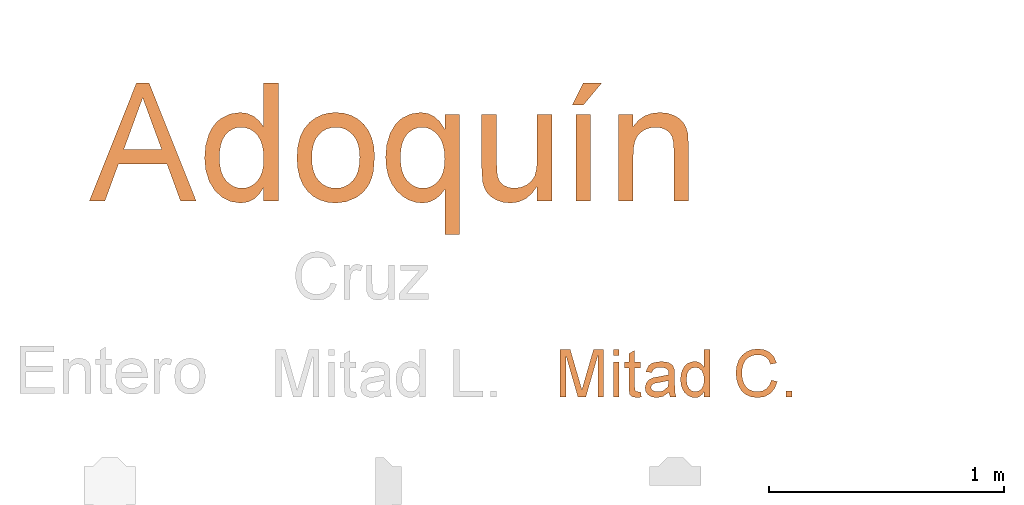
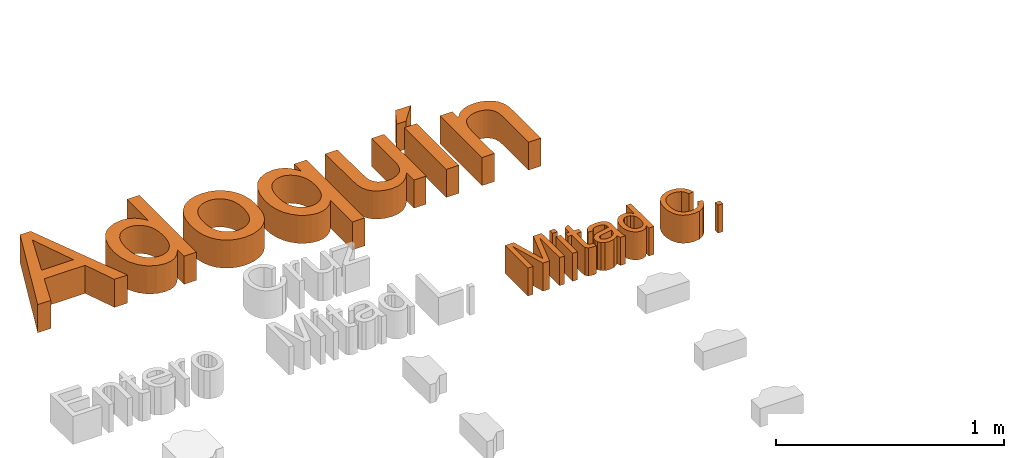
# One storey, part 8 of 19: 2 proxies.
"""IFC2X3 building model written with IfcOpenShell, lengths in metres."""

from ifc_helpers import new_model, entity, si_unit, converted_unit, derived_unit, direction, frame, frame_2d, origin, origin_2d_with_axis, place, context, subcontext, project, spatial, polyline, rectangle, outline, extrude, type_object, element, save


model = new_model("IFC2X3")

# Units and contexts
model_context = context("Model", 3, precision=1e-05, world=origin(), true_north=direction((6.12303176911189e-17, 1.0)))
body_context = subcontext(model_context, "Body", "Model", "MODEL_VIEW")
ifc_project = project(units=[si_unit("LENGTHUNIT", "METRE"), si_unit("AREAUNIT", "SQUARE_METRE"), si_unit("VOLUMEUNIT", "CUBIC_METRE"), converted_unit("PLANEANGLEUNIT", "DEGREE", entity("IfcRatioMeasure", 0.0174532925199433), si_unit("PLANEANGLEUNIT", "RADIAN"), dimensions=[0, 0, 0, 0, 0, 0, 0]), si_unit("MASSUNIT", "GRAM", prefix="KILO"), derived_unit("MASSDENSITYUNIT", [(si_unit("MASSUNIT", "GRAM", prefix="KILO"), 1), (si_unit("LENGTHUNIT", "METRE"), -3)]), derived_unit("MOMENTOFINERTIAUNIT", [(si_unit("LENGTHUNIT", "METRE"), 4)]), si_unit("TIMEUNIT", "SECOND"), si_unit("FREQUENCYUNIT", "HERTZ"), si_unit("THERMODYNAMICTEMPERATUREUNIT", "DEGREE_CELSIUS"), derived_unit("THERMALTRANSMITTANCEUNIT", [(si_unit("MASSUNIT", "GRAM", prefix="KILO"), 1), (si_unit("THERMODYNAMICTEMPERATUREUNIT", "KELVIN"), -1), (si_unit("TIMEUNIT", "SECOND"), -3)]), derived_unit("VOLUMETRICFLOWRATEUNIT", [(si_unit("LENGTHUNIT", "METRE"), 3), (si_unit("TIMEUNIT", "SECOND"), -1)]), si_unit("ELECTRICCURRENTUNIT", "AMPERE"), si_unit("ELECTRICVOLTAGEUNIT", "VOLT"), si_unit("POWERUNIT", "WATT"), si_unit("FORCEUNIT", "NEWTON", prefix="KILO"), si_unit("ILLUMINANCEUNIT", "LUX"), si_unit("LUMINOUSFLUXUNIT", "LUMEN"), si_unit("LUMINOUSINTENSITYUNIT", "CANDELA"), derived_unit("USERDEFINED", [(si_unit("MASSUNIT", "GRAM", prefix="KILO"), -1), (si_unit("LENGTHUNIT", "METRE"), -2), (si_unit("TIMEUNIT", "SECOND"), 3), (si_unit("LUMINOUSFLUXUNIT", "LUMEN"), 1)]), derived_unit("LINEARVELOCITYUNIT", [(si_unit("LENGTHUNIT", "METRE"), 1), (si_unit("TIMEUNIT", "SECOND"), -1)]), si_unit("PRESSUREUNIT", "PASCAL"), derived_unit("USERDEFINED", [(si_unit("LENGTHUNIT", "METRE"), -2), (si_unit("MASSUNIT", "GRAM", prefix="KILO"), 1), (si_unit("TIMEUNIT", "SECOND"), -2)]), derived_unit("LINEARFORCEUNIT", [(si_unit("MASSUNIT", "GRAM", prefix="KILO"), 1), (si_unit("LENGTHUNIT", "METRE"), 1), (si_unit("TIMEUNIT", "SECOND"), -2), (si_unit("LENGTHUNIT", "METRE"), -1)]), derived_unit("PLANARFORCEUNIT", [(si_unit("MASSUNIT", "GRAM", prefix="KILO"), 1), (si_unit("LENGTHUNIT", "METRE"), 1), (si_unit("TIMEUNIT", "SECOND"), -2), (si_unit("LENGTHUNIT", "METRE"), -2)])], contexts=[model_context])

# Site, building, storey
site_placement = place(None, origin())
site = spatial("IfcSite", under=ifc_project, at=site_placement, Name="Default", CompositionType="ELEMENT")
building_placement = place(site_placement, origin())
building = spatial("IfcBuilding", under=site, at=building_placement, CompositionType="ELEMENT")
storey_placement = place(building_placement, origin())
storey = spatial("IfcBuildingStorey", under=building, at=storey_placement, Name="Nivel 1", CompositionType="ELEMENT", Elevation=0.0)

# Proxies
building_element_proxy_type_1 = type_object("IfcBuildingElementProxyType", Name="Texto de modelo:Título", PredefinedType="NOTDEFINED")
proxy_1_placement = place(storey_placement, origin())
element("IfcBuildingElementProxy", 1, at=proxy_1_placement, inside=storey, type_object=building_element_proxy_type_1, Name="Texto de modelo:Título", ObjectType="Texto de modelo:Título", context=body_context, shape_type="SweptSolid", body=[
    extrude(outline(polyline([(-0.227151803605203, -0.164811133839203), (-0.160933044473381, -0.164811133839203), (-0.103543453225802, -0.00784814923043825), (0.103451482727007, -0.00784814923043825), (0.160841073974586, -0.164811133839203), (0.227182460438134, -0.164811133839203), (0.0268094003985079, 0.337470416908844), (-0.0266561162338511, 0.337470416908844), (-0.227151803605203, -0.164811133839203)]), holes=[polyline([(-0.0804895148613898, 0.0549370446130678), (-0.0313159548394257, 0.189213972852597), (-4.59852493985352e-05, 0.274685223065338), (0.0351480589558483, 0.178422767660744), (0.0805201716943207, 0.0549370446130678), (-0.0804895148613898, 0.0549370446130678)])]), frame((-10.4838057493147, 3.08569645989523, 0.0)), (0.0, 0.0, 1.0), 0.15),
    extrude(outline(polyline([(0.111602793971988, -0.204691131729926), (0.174387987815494, -0.204691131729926), (0.174387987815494, 0.297590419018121), (0.111602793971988, 0.297590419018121), (0.111602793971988, 0.110461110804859), (0.0933006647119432, 0.135247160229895), (0.0702773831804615, 0.154913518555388), (0.0431154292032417, 0.167743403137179), (0.0123972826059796, 0.172020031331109), (-0.0297711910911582, 0.166041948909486), (-0.0677396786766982, 0.148107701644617), (-0.0845549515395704, 0.134840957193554), (-0.0991322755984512, 0.118953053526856), (-0.111471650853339, 0.100443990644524), (-0.121573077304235, 0.0793137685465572), (-0.135046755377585, 0.0318876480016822), (-0.139537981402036, -0.0206275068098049), (-0.134663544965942, -0.073801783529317), (-0.120040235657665, -0.120507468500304), (-0.0965571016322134, -0.159181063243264), (-0.0651031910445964, -0.188259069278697), (-0.0279471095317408, -0.206469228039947), (0.0126425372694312, -0.212539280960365), (0.0433376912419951, -0.208346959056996), (0.070062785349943, -0.195769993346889), (0.0928178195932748, -0.174808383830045), (0.111602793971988, -0.145462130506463), (0.111602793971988, -0.204691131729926)]), holes=[polyline([(-0.0767527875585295, -0.0203822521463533), (-0.0750973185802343, 0.0109681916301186), (-0.0701309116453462, 0.0378197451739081), (-0.0618535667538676, 0.0601724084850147), (-0.0502652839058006, 0.0780261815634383), (-0.0362014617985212, 0.0916799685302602), (-0.020497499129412, 0.101432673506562), (-0.00315339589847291, 0.107284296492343), (0.0158308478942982, 0.109234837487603), (0.0352634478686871, 0.107203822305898), (0.0530942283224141, 0.101110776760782), (0.0693231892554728, 0.090955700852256), (0.0839503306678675, 0.0767385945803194), (0.0960482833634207, 0.0581835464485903), (0.104689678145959, 0.0350146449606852), (0.109874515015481, 0.00723189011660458), (0.111602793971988, -0.0251647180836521), (0.109905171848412, -0.0547140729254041), (0.104812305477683, -0.0802090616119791), (0.0963241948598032, -0.101649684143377), (0.0844408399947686, -0.119035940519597), (0.0701279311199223, -0.132475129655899), (0.054351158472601, -0.142074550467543), (0.0371105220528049, -0.14783420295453), (0.0184060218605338, -0.149754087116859), (-0.000210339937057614, -0.147742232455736), (-0.0175544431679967, -0.141706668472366), (-0.0336262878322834, -0.131647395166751), (-0.0484258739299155, -0.117564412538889), (-0.0608188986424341, -0.0994193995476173), (-0.069671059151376, -0.0771740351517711), (-0.0749823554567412, -0.0508283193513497), (-0.0767527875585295, -0.0203822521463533)])]), frame((-10.0814007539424, 3.12557645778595, 0.0)), (0.0, 0.0, 1.0), 0.15),
    extrude(outline(polyline([(-0.0131957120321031, -0.170548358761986), (0.030766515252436, -0.170548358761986), (0.0696520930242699, -0.16451238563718), (0.103461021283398, -0.15244043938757), (0.13219330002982, -0.134332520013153), (0.155411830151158, -0.111243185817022), (0.172679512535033, -0.0842269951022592), (0.183996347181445, -0.0532839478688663), (0.189362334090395, -0.0184140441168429), (0.18661868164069, 0.0261717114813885), (0.172415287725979, 0.0679068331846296), (0.161237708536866, 0.086976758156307), (0.147638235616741, 0.103876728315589), (0.131616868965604, 0.118606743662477), (0.113173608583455, 0.131166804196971), (0.091547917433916, 0.141494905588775), (0.0659792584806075, 0.149529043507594), (0.00301303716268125, 0.158715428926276), (-0.0385534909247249, 0.158529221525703), (-0.0757586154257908, 0.152292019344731), (-0.108602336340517, 0.140003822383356), (-0.137084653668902, 0.121664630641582), (-0.160392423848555, 0.0984428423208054), (-0.177712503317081, 0.0715068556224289), (-0.189044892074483, 0.0408566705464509), (-0.194389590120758, 0.00649228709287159), (-0.193874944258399, -0.0249843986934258), (-0.188105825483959, -0.0543136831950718), (-0.177082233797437, -0.0814955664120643), (-0.160804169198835, -0.106530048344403), (-0.13445075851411, -0.132057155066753), (-0.10106487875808, -0.151235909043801), (-0.0606465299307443, -0.164066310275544), (-0.0131957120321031, -0.170548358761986)]), holes=[polyline([(-0.00925174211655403, -0.107887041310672), (-0.0395162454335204, -0.104102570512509), (-0.0654537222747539, -0.0969584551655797), (-0.0870641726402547, -0.0864546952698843), (-0.104347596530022, -0.072591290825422), (-0.117399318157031, -0.0562452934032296), (-0.126314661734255, -0.0382937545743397), (-0.131093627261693, -0.0187366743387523), (-0.131736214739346, 0.00242594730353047), (-0.128372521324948, 0.0230712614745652), (-0.121092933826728, 0.0416882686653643), (-0.109897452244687, 0.058276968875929), (-0.0947860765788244, 0.072837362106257), (-0.0759345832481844, 0.0844361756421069), (-0.0535187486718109, 0.0921401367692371), (-0.027538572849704, 0.0959492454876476), (0.00200594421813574, 0.0958635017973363), (0.0329855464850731, 0.0920326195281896), (0.0594775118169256, 0.0848525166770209), (0.0814818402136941, 0.0743231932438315), (0.0989985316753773, 0.0604446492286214), (0.112185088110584, 0.0441052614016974), (0.12119901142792, 0.0261934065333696), (0.126040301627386, 0.00670908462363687), (0.126708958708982, -0.0143477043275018), (0.123328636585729, -0.0352492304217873), (0.116038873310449, -0.054023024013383), (0.104839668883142, -0.0706690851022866), (0.0897310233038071, -0.0851874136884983), (0.0707470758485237, -0.0966969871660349), (0.047921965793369, -0.104316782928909), (0.0212556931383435, -0.108046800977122), (-0.00925174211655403, -0.107887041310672)])]), frame((-9.6574863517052, 3.10319454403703, 0.0), z_axis=(0.0, 0.0, 1.0), x_axis=(0.0647659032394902, -0.997900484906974, 0.0)), (0.0, 0.0, 1.0), 0.15),
    extrude(outline(polyline([(0.113122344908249, -0.311998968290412), (0.175907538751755, -0.311998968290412), (0.175907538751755, 0.198130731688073), (0.113122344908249, 0.198130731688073), (0.113122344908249, 0.135590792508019), (0.0926742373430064, 0.166385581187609), (0.0687312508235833, 0.188381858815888), (0.0412933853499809, 0.201579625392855), (0.0103606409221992, 0.205978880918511), (-0.0296465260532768, 0.200307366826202), (-0.0662814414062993, 0.183292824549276), (-0.0827211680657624, 0.170616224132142), (-0.0970915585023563, 0.155272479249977), (-0.119624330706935, 0.116583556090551), (-0.133419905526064, 0.0697092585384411), (-0.138018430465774, 0.0171327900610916), (-0.135121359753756, -0.025997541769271), (-0.126430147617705, -0.0642764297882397), (-0.111944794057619, -0.097703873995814), (-0.0916652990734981, -0.126279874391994), (-0.0673774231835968, -0.149161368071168), (-0.0408669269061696, -0.16550529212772), (-0.0121338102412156, -0.175311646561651), (0.0188219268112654, -0.178580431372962), (0.046842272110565, -0.174441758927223), (0.0732684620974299, -0.162025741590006), (0.0960464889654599, -0.143355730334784), (0.113122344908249, -0.120455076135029), (0.113122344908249, -0.311998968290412)]), holes=[polyline([(-0.0752332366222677, 0.0136992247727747), (-0.0735586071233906, 0.0447967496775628), (-0.0685347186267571, 0.0715026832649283), (-0.0601615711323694, 0.0938170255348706), (-0.0484391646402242, 0.11173977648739), (-0.0343101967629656, 0.125500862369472), (-0.0187173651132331, 0.135330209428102), (-0.00166066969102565, 0.14122781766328), (0.0168598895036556, 0.143193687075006), (0.035610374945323, 0.141082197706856), (0.0531115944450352, 0.134747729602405), (0.0693635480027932, 0.124190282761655), (0.0843662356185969, 0.109409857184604), (0.0969470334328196, 0.0904447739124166), (0.105933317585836, 0.067333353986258), (0.111325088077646, 0.0400755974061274), (0.113122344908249, 0.00867150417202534), (0.11141705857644, -0.0207743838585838), (0.106301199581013, -0.0462042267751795), (0.0977747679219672, -0.0676180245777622), (0.0858377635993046, -0.0850157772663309), (0.0715401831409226, -0.0984817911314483), (0.0559320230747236, -0.108100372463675), (0.0390132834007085, -0.113871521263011), (0.0207839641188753, -0.115795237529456), (0.00174223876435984, -0.113771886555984), (-0.0158969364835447, -0.107701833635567), (-0.0321335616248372, -0.097585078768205), (-0.0469676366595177, -0.0834216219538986), (-0.0593338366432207, -0.0652114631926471), (-0.0681668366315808, -0.0429546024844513), (-0.0734666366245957, -0.0166510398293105), (-0.0752332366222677, 0.0136992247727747)])]), frame((-9.31380168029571, 3.09161760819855, 0.0)), (0.0, 0.0, 1.0), 0.15),
    extrude(outline(polyline([(0.099374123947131, -0.102697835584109), (0.162159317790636, -0.102697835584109), (0.162159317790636, 0.266165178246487), (0.099374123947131, 0.266165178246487), (0.099374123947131, 0.0742534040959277), (0.0968296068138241, 0.0338323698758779), (0.0891960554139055, 0.00429451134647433), (0.0754464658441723, -0.0172725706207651), (0.0545538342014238, -0.0337812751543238), (0.0292159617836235, -0.0442659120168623), (0.00213064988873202, -0.0477607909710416), (-0.0234831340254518, -0.0443425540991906), (-0.044651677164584, -0.0340878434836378), (-0.060332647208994, -0.0178550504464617), (-0.0694837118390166, 0.00349743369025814), (-0.0732851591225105, 0.0675089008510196), (-0.0732851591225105, 0.266165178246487), (-0.136070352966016, 0.266165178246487), (-0.136070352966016, 0.0379557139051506), (-0.132391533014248, -0.0204148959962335), (-0.125018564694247, -0.045645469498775), (-0.113690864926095, -0.0666454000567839), (-0.0968602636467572, -0.0839358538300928), (-0.072978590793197, -0.0980379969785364), (-0.0445137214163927, -0.107418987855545), (-0.0139335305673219, -0.110545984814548), (0.0200035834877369, -0.106093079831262), (0.0502005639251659, -0.0927343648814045), (0.0766574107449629, -0.070469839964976), (0.099374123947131, -0.0392995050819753), (0.099374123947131, -0.102697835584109)])), frame((-8.90764599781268, 3.02358316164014, 0.0)), (0.0, 0.0, 1.0), 0.15),
    extrude(outline(polyline([(-0.0549370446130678, -0.0470888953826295), (-0.00784814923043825, -0.0470888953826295), (0.0706333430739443, 0.0470888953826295), (-0.00784814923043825, 0.0470888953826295), (-0.0549370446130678, -0.0470888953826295)])), frame((-8.60421999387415, 3.37607798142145, 0.0)), (0.0, 0.0, 1.0), 0.15),
    extrude(outline(polyline([(-0.160354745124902, -0.269066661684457), (-0.0975695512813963, -0.269066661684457), (-0.0975695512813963, -0.0733534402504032), (-0.095779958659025, -0.0416619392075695), (-0.0904111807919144, -0.0155039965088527), (-0.0814632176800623, 0.00512038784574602), (-0.0689360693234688, 0.0202112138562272), (-0.0539410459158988, 0.030994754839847), (-0.0375894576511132, 0.0386972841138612), (-0.0198813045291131, 0.04331880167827), (-0.000816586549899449, 0.0448593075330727), (0.0223446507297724, 0.0421155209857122), (0.0422869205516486, 0.0338841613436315), (0.0578452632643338, 0.0210542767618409), (0.067854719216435, 0.00451491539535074), (0.0732809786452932, -0.0185696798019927), (0.0750897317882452, -0.0510352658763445), (0.0750897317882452, -0.269066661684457), (0.137874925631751, -0.269066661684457), (0.137874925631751, -0.0425739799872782), (0.13456398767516, 0.0181265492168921), (0.127160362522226, 0.0430352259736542), (0.11574069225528, 0.0642957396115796), (0.0989100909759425, 0.0818621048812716), (0.0752736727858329, 0.0956883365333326), (0.0469314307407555, 0.104655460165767), (0.0159833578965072, 0.107644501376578), (-0.0189807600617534, 0.103935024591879), (-0.0495609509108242, 0.0928065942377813), (-0.0757572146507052, 0.0742592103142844), (-0.0975695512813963, 0.0482928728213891), (-0.0975695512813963, 0.0997963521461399), (-0.160354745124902, 0.0997963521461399), (-0.160354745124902, -0.269066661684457)])), frame((-8.30259856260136, 3.18995198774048, 0.0)), (0.0, 0.0, 1.0), 0.15),
    extrude(rectangle(XDim=0.062785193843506, YDim=0.368863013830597, at=origin_2d_with_axis()), frame((-8.61206814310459, 3.10531683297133, 0.0)), (0.0, 0.0, 1.0), 0.15),
])
building_element_proxy_type_2 = type_object("IfcBuildingElementProxyType", Name="Texto de modelo:Subtítulo", PredefinedType="NOTDEFINED")
proxy_2_placement = place(storey_placement, origin())
element("IfcBuildingElementProxy", 2, at=proxy_2_placement, inside=storey, type_object=building_element_proxy_type_2, Name="Texto de modelo:Subtítulo", ObjectType="Texto de modelo:Subtítulo", context=body_context, shape_type="SweptSolid", body=[
    extrude(outline(polyline([(-0.0926441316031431, -0.0870686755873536), (-0.0675300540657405, -0.0870686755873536), (-0.0675300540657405, 0.0887298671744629), (-0.0170075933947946, -0.0870686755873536), (0.0169847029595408, -0.0870686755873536), (0.0674581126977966, 0.0887298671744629), (0.0674581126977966, -0.0870686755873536), (0.0925721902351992, -0.0870686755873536), (0.0925721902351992, 0.113843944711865), (0.0493583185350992, 0.113843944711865), (0.00894034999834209, -0.0253135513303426), (-3.59706839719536e-05, -0.0573438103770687), (-0.00837462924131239, -0.0277660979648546), (-0.0495774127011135, 0.113843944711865), (-0.0926441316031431, 0.113843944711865), (-0.0926441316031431, -0.0870686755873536)])), frame((-8.61814977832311, 2.17643042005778, 0.0)), (0.0, 0.0, 1.0), 0.15),
    extrude(rectangle(XDim=0.0251140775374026, YDim=0.147545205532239, at=frame_2d((-5.41233724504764e-16, 0.0), x_axis=(1.0, 0.0))), frame((-8.47221017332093, 2.16313434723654, 0.0)), (0.0, 0.0, 1.0), 0.15),
    extrude(outline(polyline([(-0.0351329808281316, -0.0583737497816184), (-0.0402910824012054, -0.0796644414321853), (-0.0218126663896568, -0.0838186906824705), (-0.000471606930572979, -0.0816406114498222), (0.011004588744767, -0.071734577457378), (0.0167042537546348, -0.0436466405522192), (0.0243888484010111, 0.0379564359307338), (0.043141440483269, 0.036190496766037), (0.0454960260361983, 0.061193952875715), (0.0267434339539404, 0.0629598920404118), (0.0301051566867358, 0.0986581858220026), (0.00648593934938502, 0.115712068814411), (0.00173997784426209, 0.065314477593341), (-0.0232634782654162, 0.0676690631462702), (-0.0256180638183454, 0.0426656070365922), (-0.00061460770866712, 0.040311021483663), (-0.00823022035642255, -0.0405595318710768), (-0.0107628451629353, -0.053327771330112), (-0.0154658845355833, -0.0574914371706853), (-0.0241462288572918, -0.0583737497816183), (-0.0351329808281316, -0.0583737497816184)])), frame((-8.39811996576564, 2.17171703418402, 0.0), z_axis=(0.0, 0.0, -1.0), x_axis=(-0.995595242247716, 0.0937556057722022, 0.0)), (0.0, 0.0, -1.0), 0.15),
    extrude(outline(polyline([(0.0711345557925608, 0.0146039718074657), (0.090988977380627, 0.0146039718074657), (0.0989307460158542, 0.0384292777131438), (0.0773157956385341, 0.0403604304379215), (0.0355206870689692, 0.0529478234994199), (0.00587865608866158, 0.0628285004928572), (-0.0153562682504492, 0.0686142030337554), (-0.0339620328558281, 0.0666985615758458), (-0.0500317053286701, 0.0539327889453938), (-0.0638910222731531, 0.0264700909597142), (-0.0695759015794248, -0.00656115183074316), (-0.0677610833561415, -0.020467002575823), (-0.062859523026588, -0.031860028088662), (-0.0430283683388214, -0.0499228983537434), (-0.0321084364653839, -0.0270903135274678), (-0.0404360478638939, -0.019053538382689), (-0.0445407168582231, -0.0101752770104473), (-0.0446745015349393, 0.000882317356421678), (-0.0410894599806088, 0.0154570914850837), (-0.0342567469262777, 0.030216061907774), (-0.0254230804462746, 0.0394995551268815), (-0.0168259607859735, 0.0421015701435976), (-0.00564621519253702, 0.0401975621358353), (-0.00038789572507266, 0.0382896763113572), (-0.00597195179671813, -0.00576232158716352), (-0.00926034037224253, -0.0275711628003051), (-0.00700345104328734, -0.046859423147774), (0.00268333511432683, -0.0634021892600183), (0.0200094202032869, -0.0742445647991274), (0.0370349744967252, -0.0765654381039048), (0.0529320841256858, -0.071801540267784), (0.066308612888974, -0.0599412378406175), (0.0757724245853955, -0.0409728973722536), (0.0795804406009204, -0.0138824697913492), (0.0711345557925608, 0.0146039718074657)]), holes=[polyline([(0.0234839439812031, 0.0304875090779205), (0.0301848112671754, 0.0280987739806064), (0.0473557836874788, 0.0181870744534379), (0.0559722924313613, -0.00195430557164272), (0.0564783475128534, -0.0146871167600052), (0.0536378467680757, -0.0279589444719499), (0.0483232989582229, -0.0395982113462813), (0.0415313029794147, -0.0470610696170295), (0.0339521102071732, -0.050448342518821), (0.0262759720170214, -0.0498608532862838), (0.0181946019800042, -0.0435477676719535), (0.0150070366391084, -0.0321702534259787), (0.017977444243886, -0.0103846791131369), (0.0234839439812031, 0.0304875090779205)])]), frame((-8.28567200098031, 2.17106328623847, 0.0), z_axis=(0.0, 0.0, 1.0), x_axis=(0.316227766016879, -0.9486832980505, 0.0)), (0.0, 0.0, 1.0), 0.15),
    extrude(outline(polyline([(0.0429290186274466, -0.0757009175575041), (0.0680430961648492, -0.0757009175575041), (0.0680430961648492, 0.125211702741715), (0.0429290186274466, 0.125211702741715), (0.0429290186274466, 0.0503599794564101), (0.0263988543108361, 0.0681409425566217), (0.0155340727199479, 0.0732728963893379), (0.00324681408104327, 0.07498354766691), (-0.0136205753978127, 0.0725923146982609), (-0.0288079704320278, 0.0654186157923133), (-0.0413650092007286, 0.0537567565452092), (-0.0503413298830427, 0.0379010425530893), (-0.0557308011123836, 0.0189305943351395), (-0.0575272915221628, -0.00207546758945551), (-0.0555775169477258, -0.0233451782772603), (-0.0497281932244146, -0.042027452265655), (-0.0403349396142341, -0.0574968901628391), (-0.0277533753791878, -0.069128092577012), (-0.0128909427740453, -0.0764121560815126), (0.0033449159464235, -0.0788401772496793), (0.0156229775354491, -0.0771632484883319), (0.0263130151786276, -0.0721324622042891), (0.0354150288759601, -0.0637478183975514), (0.0429290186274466, -0.0520093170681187), (0.0429290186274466, -0.0757009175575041)]), holes=[polyline([(-0.0324132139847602, -0.00197736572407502), (-0.0297644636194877, 0.0213034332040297), (-0.0218182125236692, 0.0373860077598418), (-0.00991109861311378, 0.0467486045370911), (0.00462024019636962, 0.0498694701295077), (0.0195255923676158, 0.0466198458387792), (0.031868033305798, 0.0368709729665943), (0.0401637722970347, 0.0201813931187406), (0.0429290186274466, -0.0038903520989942), (0.0402128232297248, -0.0259080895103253), (0.0320642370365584, -0.041438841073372), (0.0200283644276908, -0.0506542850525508), (0.00565030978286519, -0.0537260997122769), (-0.00873387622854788, -0.0505071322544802), (-0.0210824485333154, -0.0408502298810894), (-0.029580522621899, -0.0246940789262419), (-0.0324132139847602, -0.00197736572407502)])]), frame((-8.14156728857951, 2.16506266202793, 0.0)), (0.0, 0.0, 1.0), 0.15),
    extrude(outline(polyline([(0.00355232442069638, -0.0754517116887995), (0.000735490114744, -0.101233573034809), (0.0322073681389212, -0.100733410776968), (0.0586340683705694, -0.0912753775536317), (0.0793092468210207, -0.0735495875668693), (0.0935265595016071, -0.0482461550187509), (0.100733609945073, -0.0198295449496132), (0.0996500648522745, 0.00530853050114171), (0.0908072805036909, 0.0276031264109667), (0.0747366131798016, 0.0474892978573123), (0.053262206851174, 0.0640355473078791), (0.0282082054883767, 0.0763103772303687), (-0.000248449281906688, 0.0838799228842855), (-0.027066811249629, 0.0844731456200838), (-0.0513308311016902, 0.078242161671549), (-0.0721244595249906, 0.0653390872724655), (-0.0887450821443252, 0.046999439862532), (-0.100490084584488, 0.0244587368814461), (-0.106560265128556, -0.00268319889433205), (-0.103625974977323, -0.0281270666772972), (-0.0921127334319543, -0.0509518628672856), (-0.0724460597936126, -0.0702365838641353), (-0.0579739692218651, -0.04885700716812), (-0.0720305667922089, -0.0342408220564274), (-0.0795803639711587, -0.0186741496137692), (-0.0809958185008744, -0.00185900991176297), (-0.0766493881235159, 0.0165025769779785), (-0.0665154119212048, 0.0357323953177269), (-0.0527173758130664, 0.0494622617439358), (-0.0361963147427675, 0.0575953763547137), (-0.0178932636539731, 0.0600349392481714), (0.000999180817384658, 0.0580310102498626), (0.0192884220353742, 0.0528336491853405), (0.0403234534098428, 0.0428633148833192), (0.0570828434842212, 0.0304574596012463), (0.0687737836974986, 0.015686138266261), (0.0746034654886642, -0.00138059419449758), (0.075131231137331, -0.0194006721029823), (0.0709164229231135, -0.0370320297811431), (0.0605954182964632, -0.0555423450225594), (0.0456816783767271, -0.0685820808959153), (0.0265442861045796, -0.0754517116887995), (0.00355232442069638, -0.0754517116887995)])), frame((-7.88229504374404, 2.19076345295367, 0.0), z_axis=(0.0, 0.0, -1.0), x_axis=(-0.353343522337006, -0.935493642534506, 0.0)), (0.0, 0.0, -1.0), 0.15),
    extrude(rectangle(XDim=0.0251140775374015, YDim=0.0251140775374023, at=frame_2d((0.0, -1.35308431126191e-16), x_axis=(1.0, 0.0))), frame((-7.73762340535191, 2.10191878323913, 0.0)), (0.0, 0.0, 1.0), 0.15),
    extrude(rectangle(XDim=0.0251140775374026, YDim=0.0251140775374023, at=frame_2d((-5.41233724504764e-16, 1.35308431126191e-16), x_axis=(1.0, 0.0))), frame((-8.47221017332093, 2.27771732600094, 0.0)), (0.0, 0.0, 1.0), 0.15),
])

save(model, "model.ifc")
